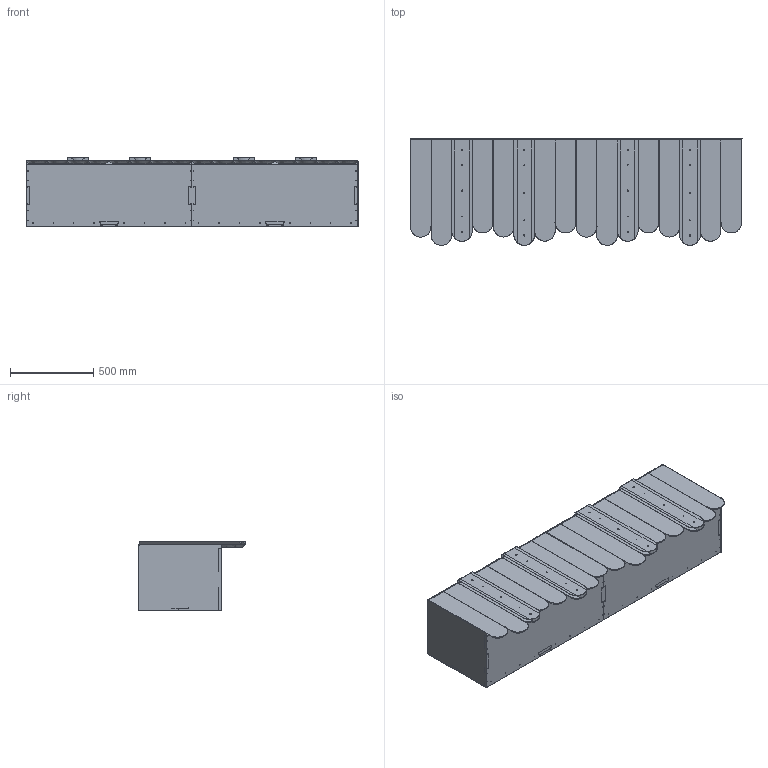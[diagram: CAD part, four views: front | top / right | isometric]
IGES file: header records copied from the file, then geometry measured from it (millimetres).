
Start section: SolidWorks IGES file using analytic representation for surfaces
Global section: file name: \\UTENTI\Dati Utenti\Tecnico\DC\2D - 3D per sito\3D\DeCastelli-3D-Xilo Console 200.igs; native system: SolidWorks 2022; preprocessor: SolidWorks 2022; author: filippo; date: 240724.135736; units: millimetre
Bounding box: 1997.04 x 642.25 x 421 mm (x, y, z)
Surface area: 14945424.5 mm2 (no closed solid volume)
Topology: 0 solids, 0 shells, 557 faces, 14307 edges, 14307 vertices
Faces by surface type: bspline 286, revolution 271
